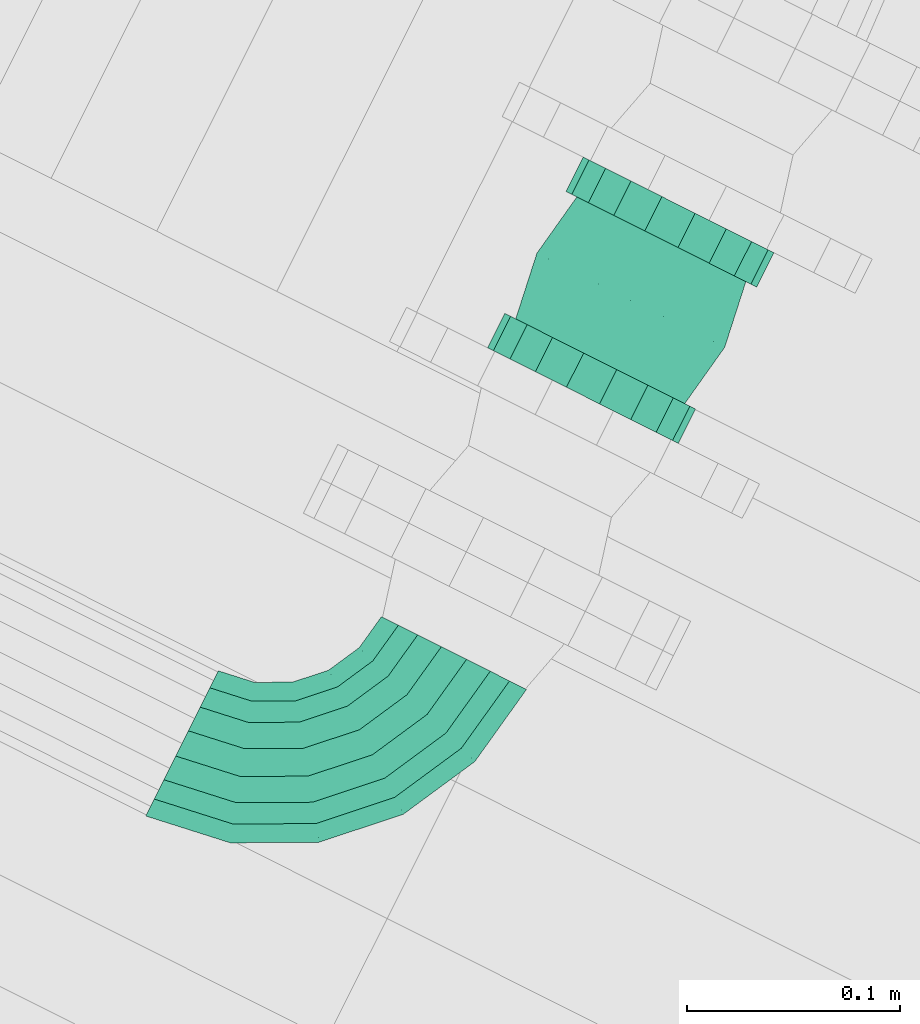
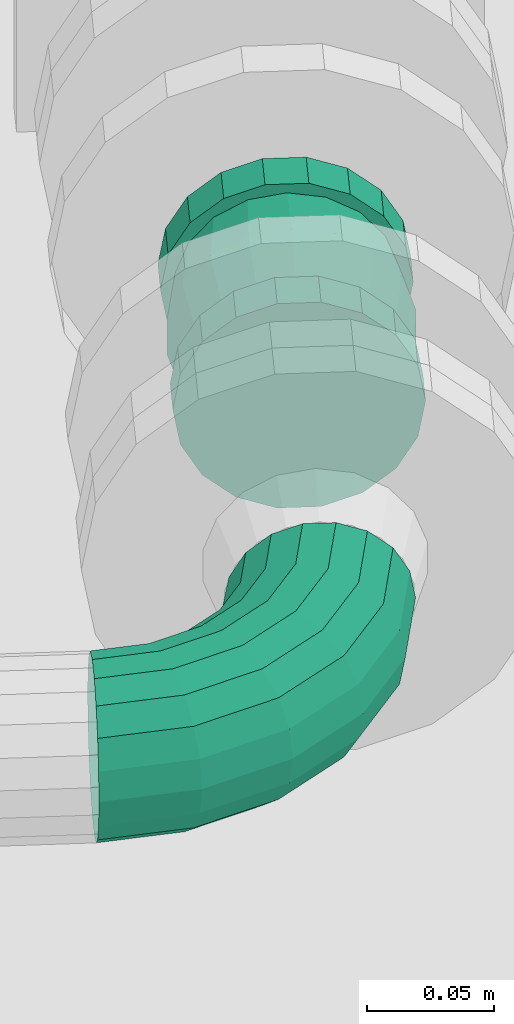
# One storey, part 61 of 206: 2 flow segments.
"""IFC2X3 building model written with IfcOpenShell, lengths in metres."""

from ifc_helpers import new_model, si_unit, derived_unit, direction, frame, origin, place, context, subcontext, project, spatial, face_set, surface_model, source, transform, mapped, material, type_object, type_shapes, element, save


model = new_model("IFC2X3")

# Units and contexts
model_context = context("Model", 3, precision=5.2338327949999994e-05, world=origin(), true_north=direction((0.0, 1.0)))
body_context = subcontext(model_context, "Body", "Model", "MODEL_VIEW")
ifc_project = project(units=[si_unit("LENGTHUNIT", "METRE"), si_unit("AREAUNIT", "SQUARE_METRE"), si_unit("VOLUMEUNIT", "CUBIC_METRE"), si_unit("MASSUNIT", "GRAM", prefix="KILO"), si_unit("PLANEANGLEUNIT", "RADIAN"), derived_unit("THERMALTRANSMITTANCEUNIT", [(si_unit("MASSUNIT", "GRAM", prefix="KILO"), 1), (si_unit("THERMODYNAMICTEMPERATUREUNIT", "KELVIN"), -1), (si_unit("TIMEUNIT", "SECOND"), -3)])], contexts=[model_context])

# Site, building, storey
site_placement = place(None, frame((0.0, 0.0, 0.0), z_axis=(0.0, 0.0, 1.0), x_axis=(0.8939966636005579, -0.4480736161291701, 0.0)))
site = spatial("IfcSite", under=ifc_project, at=site_placement, Name="Default", CompositionType="ELEMENT")
building_placement = place(site_placement, origin())
building = spatial("IfcBuilding", under=site, at=building_placement, CompositionType="ELEMENT")
storey_placement = place(building_placement, origin())
storey = spatial("IfcBuildingStorey", under=building, at=storey_placement, Name="Erdgeschoss", CompositionType="ELEMENT", Elevation=0.0)

# Flow segments
ifc_material = material(Name="IfcSurfaceStyle #352577")
distribution_element_type_1 = type_object("IfcDistributionElementType", Name="Gummikompensator 604247:Gummikompensator 604247", material=ifc_material)
shared_shape_1 = source(origin(), body_context, "Body", "SurfaceModel", [
    surface_model("IfcFaceBasedSurfaceModel", [(25.040640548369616, 5.15795839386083, 0.8699999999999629), (25.04365591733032, 5.15795839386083, 0.8528989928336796), (25.04365591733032, 5.13995839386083, 0.8528989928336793), (25.040640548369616, 5.13995839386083, 0.8699999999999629), (25.05233832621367, 5.15795839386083, 0.8378606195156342), (25.05233832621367, 5.13995839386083, 0.8378606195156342), (25.06564054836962, 5.15795839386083, 0.8266987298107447), (25.06564054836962, 5.13995839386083, 0.8266987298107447), (25.081958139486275, 5.15795839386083, 0.8207596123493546), (25.081958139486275, 5.13995839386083, 0.8207596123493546), (25.099322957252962, 5.15795839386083, 0.820759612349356), (25.099322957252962, 5.13995839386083, 0.820759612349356), (25.115640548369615, 5.15795839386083, 0.8266987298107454), (25.115640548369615, 5.13995839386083, 0.8266987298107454), (25.128942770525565, 5.15795839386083, 0.8378606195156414), (25.128942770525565, 5.13995839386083, 0.8378606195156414), (25.13762517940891, 5.15795839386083, 0.8528989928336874), (25.13762517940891, 5.13995839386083, 0.8528989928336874), (25.140640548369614, 5.15795839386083, 0.8699999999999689), (25.140640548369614, 5.13995839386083, 0.8699999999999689), (25.137625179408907, 5.15795839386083, 0.8871010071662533), (25.137625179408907, 5.13995839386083, 0.8871010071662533), (25.12894277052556, 5.15795839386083, 0.9021393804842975), (25.12894277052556, 5.13995839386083, 0.9021393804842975), (25.115640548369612, 5.15795839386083, 0.9133012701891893), (25.115640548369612, 5.13995839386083, 0.9133012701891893), (25.09932295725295, 5.15795839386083, 0.9192403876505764), (25.09932295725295, 5.13995839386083, 0.9192403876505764), (25.08195813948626, 5.15795839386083, 0.9192403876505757), (25.08195813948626, 5.13995839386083, 0.9192403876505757), (25.06564054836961, 5.15795839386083, 0.913301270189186), (25.06564054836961, 5.13995839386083, 0.913301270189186), (25.052338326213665, 5.15795839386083, 0.9021393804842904), (25.052338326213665, 5.13995839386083, 0.9021393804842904), (25.04365591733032, 5.15795839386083, 0.887101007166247), (25.04365591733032, 5.13995839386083, 0.887101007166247), (25.090640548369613, 5.15795839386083, 0.8699999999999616), (25.090640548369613, 5.139958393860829, 0.8699999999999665), (25.090640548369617, 5.13995839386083, 0.8249999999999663), (25.106031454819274, 5.13995839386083, 0.8277138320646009), (25.107741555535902, 5.10795839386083, 0.8230153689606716), (25.090640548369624, 5.10795839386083, 0.8199999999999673), (25.119565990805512, 5.13995839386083, 0.8355280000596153), (25.122779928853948, 5.10795839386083, 0.8316977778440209), (25.129611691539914, 5.13995839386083, 0.8474999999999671), (25.13394181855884, 5.10795839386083, 0.8449999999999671), (25.134956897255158, 5.13995839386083, 0.8621858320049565), (25.139880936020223, 5.10795839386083, 0.861317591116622), (25.13495689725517, 5.139958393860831, 0.8778141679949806), (25.139880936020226, 5.107958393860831, 0.8786824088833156), (25.129611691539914, 5.13995839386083, 0.8924999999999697), (25.133941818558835, 5.10795839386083, 0.8949999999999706), (25.11956599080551, 5.13995839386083, 0.9044719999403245), (25.122779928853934, 5.10795839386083, 0.9083022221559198), (25.10603145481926, 5.13995839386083, 0.9122861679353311), (25.107741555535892, 5.10795839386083, 0.9169846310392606), (25.090640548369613, 5.13995839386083, 0.9149999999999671), (25.09064054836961, 5.10795839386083, 0.9199999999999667), (25.075249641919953, 5.13995839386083, 0.9122861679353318), (25.073539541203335, 5.10795839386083, 0.9169846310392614), (25.061715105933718, 5.13995839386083, 0.9044719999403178), (25.058501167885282, 5.10795839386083, 0.9083022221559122), (25.051669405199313, 5.13995839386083, 0.8924999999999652), (25.047339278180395, 5.10795839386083, 0.8949999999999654), (25.04632419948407, 5.13995839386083, 0.8778141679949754), (25.041400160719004, 5.10795839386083, 0.8786824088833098), (25.04632419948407, 5.13995839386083, 0.8621858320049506), (25.041400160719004, 5.10795839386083, 0.8613175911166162), (25.051669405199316, 5.13995839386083, 0.8474999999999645), (25.047339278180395, 5.10795839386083, 0.8449999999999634), (25.061715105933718, 5.13995839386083, 0.8355280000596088), (25.058501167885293, 5.10795839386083, 0.8316977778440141), (25.075249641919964, 5.13995839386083, 0.8277138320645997), (25.07353954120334, 5.10795839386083, 0.8230153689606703), (25.106031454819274, 5.07595839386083, 0.8277138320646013), (25.090640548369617, 5.07595839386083, 0.8249999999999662), (25.119565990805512, 5.07595839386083, 0.8355280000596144), (25.129611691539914, 5.07595839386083, 0.8474999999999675), (25.134956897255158, 5.07595839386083, 0.8621858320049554), (25.13495689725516, 5.07595839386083, 0.8778141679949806), (25.129611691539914, 5.07595839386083, 0.892499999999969), (25.11956599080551, 5.07595839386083, 0.9044719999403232), (25.10603145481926, 5.07595839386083, 0.9122861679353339), (25.090640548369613, 5.07595839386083, 0.9149999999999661), (25.075249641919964, 5.07595839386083, 0.912286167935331), (25.061715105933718, 5.07595839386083, 0.9044719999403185), (25.051669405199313, 5.07595839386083, 0.8924999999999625), (25.04632419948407, 5.07595839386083, 0.8778141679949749), (25.04632419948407, 5.07595839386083, 0.862185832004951), (25.05166940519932, 5.07595839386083, 0.8474999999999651), (25.061715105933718, 5.07595839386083, 0.8355280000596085), (25.075249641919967, 5.07595839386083, 0.8277138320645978), (25.040640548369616, 5.07595839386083, 0.8699999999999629), (25.04365591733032, 5.07595839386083, 0.8528989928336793), (25.04365591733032, 5.0579583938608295, 0.8528989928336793), (25.040640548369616, 5.0579583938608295, 0.8699999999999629), (25.05233832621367, 5.07595839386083, 0.8378606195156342), (25.05233832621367, 5.0579583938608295, 0.8378606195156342), (25.06564054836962, 5.07595839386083, 0.8266987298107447), (25.06564054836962, 5.0579583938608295, 0.8266987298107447), (25.081958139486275, 5.07595839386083, 0.8207596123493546), (25.081958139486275, 5.0579583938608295, 0.8207596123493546), (25.099322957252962, 5.07595839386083, 0.820759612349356), (25.099322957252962, 5.0579583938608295, 0.820759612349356), (25.115640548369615, 5.07595839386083, 0.8266987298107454), (25.115640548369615, 5.0579583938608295, 0.8266987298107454), (25.128942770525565, 5.07595839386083, 0.8378606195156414), (25.128942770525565, 5.0579583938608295, 0.8378606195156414), (25.13762517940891, 5.07595839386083, 0.8528989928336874), (25.13762517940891, 5.0579583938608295, 0.8528989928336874), (25.140640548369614, 5.07595839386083, 0.8699999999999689), (25.140640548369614, 5.0579583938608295, 0.8699999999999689), (25.137625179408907, 5.07595839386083, 0.8871010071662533), (25.137625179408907, 5.0579583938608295, 0.8871010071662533), (25.12894277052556, 5.07595839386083, 0.9021393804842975), (25.12894277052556, 5.0579583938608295, 0.9021393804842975), (25.115640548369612, 5.07595839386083, 0.9133012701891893), (25.115640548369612, 5.0579583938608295, 0.9133012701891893), (25.09932295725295, 5.07595839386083, 0.9192403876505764), (25.09932295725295, 5.0579583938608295, 0.9192403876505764), (25.08195813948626, 5.07595839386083, 0.9192403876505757), (25.08195813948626, 5.0579583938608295, 0.9192403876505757), (25.06564054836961, 5.07595839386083, 0.913301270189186), (25.06564054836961, 5.0579583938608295, 0.913301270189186), (25.052338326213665, 5.07595839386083, 0.9021393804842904), (25.052338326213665, 5.0579583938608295, 0.9021393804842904), (25.04365591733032, 5.07595839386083, 0.887101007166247), (25.04365591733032, 5.0579583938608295, 0.887101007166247), (25.090640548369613, 5.07595839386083, 0.8699999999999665), (25.090640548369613, 5.0579583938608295, 0.8699999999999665)], [face_set([[[0, 1, 2, 3]], [[1, 4, 5, 2]], [[4, 6, 7, 5]], [[6, 8, 9, 7]], [[8, 10, 11, 9]], [[10, 12, 13, 11]], [[12, 14, 15, 13]], [[14, 16, 17, 15]], [[16, 18, 19, 17]], [[18, 20, 21, 19]], [[20, 22, 23, 21]], [[22, 24, 25, 23]], [[24, 26, 27, 25]], [[26, 28, 29, 27]], [[28, 30, 31, 29]], [[30, 32, 33, 31]], [[32, 34, 35, 33]], [[34, 0, 3, 35]], [[36, 1, 0]], [[36, 4, 1]], [[36, 6, 4]], [[36, 8, 6]], [[36, 10, 8]], [[36, 12, 10]], [[36, 14, 12]], [[36, 16, 14]], [[36, 18, 16]], [[36, 20, 18]], [[36, 22, 20]], [[36, 24, 22]], [[36, 26, 24]], [[36, 28, 26]], [[36, 30, 28]], [[36, 32, 30]], [[36, 34, 32]], [[36, 0, 34]], [[37, 35, 3]], [[37, 33, 35]], [[37, 31, 33]], [[37, 29, 31]], [[37, 27, 29]], [[37, 25, 27]], [[37, 23, 25]], [[37, 21, 23]], [[37, 19, 21]], [[37, 17, 19]], [[37, 15, 17]], [[37, 13, 15]], [[37, 11, 13]], [[37, 9, 11]], [[37, 7, 9]], [[37, 5, 7]], [[37, 2, 5]], [[37, 3, 2]], [[38, 39, 40, 41]], [[39, 42, 43, 40]], [[42, 44, 45, 43]], [[44, 46, 47, 45]], [[46, 48, 49, 47]], [[48, 50, 51, 49]], [[50, 52, 53, 51]], [[52, 54, 55, 53]], [[54, 56, 57, 55]], [[56, 58, 59, 57]], [[58, 60, 61, 59]], [[60, 62, 63, 61]], [[62, 64, 65, 63]], [[64, 66, 67, 65]], [[66, 68, 69, 67]], [[68, 70, 71, 69]], [[70, 72, 73, 71]], [[72, 38, 41, 73]], [[41, 40, 74, 75]], [[40, 43, 76, 74]], [[43, 45, 77, 76]], [[45, 47, 78, 77]], [[47, 49, 79, 78]], [[49, 51, 80, 79]], [[51, 53, 81, 80]], [[53, 55, 82, 81]], [[55, 57, 83, 82]], [[57, 59, 84, 83]], [[59, 61, 85, 84]], [[61, 63, 86, 85]], [[63, 65, 87, 86]], [[65, 67, 88, 87]], [[67, 69, 89, 88]], [[69, 71, 90, 89]], [[71, 73, 91, 90]], [[73, 41, 75, 91]], [[92, 93, 94, 95]], [[93, 96, 97, 94]], [[96, 98, 99, 97]], [[98, 100, 101, 99]], [[100, 102, 103, 101]], [[102, 104, 105, 103]], [[104, 106, 107, 105]], [[106, 108, 109, 107]], [[108, 110, 111, 109]], [[110, 112, 113, 111]], [[112, 114, 115, 113]], [[114, 116, 117, 115]], [[116, 118, 119, 117]], [[118, 120, 121, 119]], [[120, 122, 123, 121]], [[122, 124, 125, 123]], [[124, 126, 127, 125]], [[126, 92, 95, 127]], [[128, 93, 92]], [[128, 96, 93]], [[128, 98, 96]], [[128, 100, 98]], [[128, 102, 100]], [[128, 104, 102]], [[128, 106, 104]], [[128, 108, 106]], [[128, 110, 108]], [[128, 112, 110]], [[128, 114, 112]], [[128, 116, 114]], [[128, 118, 116]], [[128, 120, 118]], [[128, 122, 120]], [[128, 124, 122]], [[128, 126, 124]], [[128, 92, 126]], [[129, 127, 95]], [[129, 125, 127]], [[129, 123, 125]], [[129, 121, 123]], [[129, 119, 121]], [[129, 117, 119]], [[129, 115, 117]], [[129, 113, 115]], [[129, 111, 113]], [[129, 109, 111]], [[129, 107, 109]], [[129, 105, 107]], [[129, 103, 105]], [[129, 101, 103]], [[129, 99, 101]], [[129, 97, 99]], [[129, 94, 97]], [[129, 95, 94]]])]),
])
type_shapes(distribution_element_type_1, [shared_shape_1])
flow_segment_1_placement = place(storey_placement, origin())
element("IfcFlowSegment", 1, at=flow_segment_1_placement, inside=storey, type_object=distribution_element_type_1, material=ifc_material, Name="Gummikompensator", ObjectType="Gummikompensator", context=body_context, shape_type="MappedRepresentation", body=[
    mapped(shared_shape_1, transform((0.0, 0.0, 0.0), scale=1.0)),
])
distribution_element_type_2 = type_object("IfcDistributionElementType", Name="Rohrbogen 604270:Rohrbogen 604270", material=ifc_material)
shared_shape_2 = source(origin(), body_context, "Body", "SurfaceModel", [
    surface_model("IfcFaceBasedSurfaceModel", [(25.128690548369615, 4.922958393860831, 0.8699999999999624), (25.12639585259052, 4.92295839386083, 0.8830138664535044), (25.119996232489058, 4.882552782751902, 0.8830138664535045), (25.122178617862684, 4.881843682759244, 0.8699999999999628), (25.101423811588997, 4.846102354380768, 0.8830138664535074), (25.1032802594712, 4.844753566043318, 0.8699999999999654), (25.07249658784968, 4.817175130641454, 0.8830138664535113), (25.07384537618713, 4.815318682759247, 0.8699999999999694), (25.036046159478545, 4.798602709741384, 0.8830138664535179), (25.036755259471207, 4.796420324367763, 0.8699999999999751), (24.995640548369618, 4.7922030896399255, 0.8830138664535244), (24.99564054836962, 4.789908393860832, 0.8699999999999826), (25.1197885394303, 4.92295839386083, 0.8944580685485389), (25.11371230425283, 4.884594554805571, 0.894458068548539), (25.096078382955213, 4.849986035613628, 0.8944580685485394), (25.068612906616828, 4.822520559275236, 0.894458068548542), (25.034004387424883, 4.804886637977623, 0.8944580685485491), (24.99564054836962, 4.798810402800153, 0.8944580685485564), (25.109665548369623, 4.922958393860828, 0.9029522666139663), (25.104084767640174, 4.887722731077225, 0.9029522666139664), (25.087888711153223, 4.855936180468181, 0.9029522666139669), (25.062662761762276, 4.8307102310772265, 0.9029522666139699), (25.030876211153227, 4.814514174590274, 0.9029522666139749), (24.99564054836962, 4.808933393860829, 0.9029522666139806), (25.097247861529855, 4.922958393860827, 0.907471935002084), (25.092274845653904, 4.891560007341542, 0.9074719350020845), (25.07784259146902, 4.863235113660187, 0.907471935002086), (25.055363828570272, 4.840756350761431, 0.9074719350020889), (25.027038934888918, 4.826324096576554, 0.9074719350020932), (24.995640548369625, 4.821351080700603, 0.9074719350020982), (25.0840332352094, 4.922958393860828, 0.9074719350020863), (25.079706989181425, 4.895643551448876, 0.9074719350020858), (25.06715173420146, 4.871002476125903, 0.9074719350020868), (25.04759646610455, 4.851447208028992, 0.9074719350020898), (25.022955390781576, 4.838891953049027, 0.9074719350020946), (24.995640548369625, 4.8345657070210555, 0.9074719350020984), (25.071615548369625, 4.92295839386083, 0.9029522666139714), (25.067897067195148, 4.899480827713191, 0.9029522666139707), (25.057105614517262, 4.878301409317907, 0.9029522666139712), (25.04029753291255, 4.861493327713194, 0.9029522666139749), (25.019118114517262, 4.850701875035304, 0.9029522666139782), (24.995640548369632, 4.8469833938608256, 0.9029522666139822), (25.06149255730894, 4.922958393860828, 0.8944580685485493), (25.05826953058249, 4.902609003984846, 0.8944580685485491), (25.048915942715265, 4.884251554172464, 0.8944580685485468), (25.034347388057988, 4.86968299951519, 0.8944580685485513), (25.015989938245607, 4.860329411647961, 0.8944580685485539), (24.99564054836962, 4.857106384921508, 0.8944580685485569), (25.054885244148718, 4.92295839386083, 0.8830138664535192), (25.051985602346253, 4.9046507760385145, 0.8830138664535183), (25.043570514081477, 4.888135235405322, 0.8830138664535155), (25.030463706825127, 4.875028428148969, 0.883013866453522), (25.013948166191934, 4.866613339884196, 0.8830138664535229), (24.99564054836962, 4.863713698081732, 0.8830138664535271), (25.052590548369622, 4.92295839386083, 0.8699999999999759), (25.049803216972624, 4.9053598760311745, 0.8699999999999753), (25.041714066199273, 4.889484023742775, 0.8699999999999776), (25.02911491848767, 4.876884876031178, 0.8699999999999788), (25.013239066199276, 4.868795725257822, 0.8699999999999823), (24.995640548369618, 4.866008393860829, 0.869999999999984), (25.05488524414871, 4.92295839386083, 0.8569861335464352), (25.051985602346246, 4.904650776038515, 0.8569861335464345), (25.043570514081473, 4.888135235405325, 0.8569861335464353), (25.030463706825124, 4.87502842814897, 0.856986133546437), (25.01394816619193, 4.8666133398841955, 0.8569861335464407), (24.995640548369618, 4.863713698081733, 0.8569861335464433), (25.06149255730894, 4.92295839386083, 0.8455419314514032), (25.058269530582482, 4.902609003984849, 0.8455419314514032), (25.04891594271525, 4.884251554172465, 0.845541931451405), (25.03434738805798, 4.869682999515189, 0.8455419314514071), (25.015989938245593, 4.860329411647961, 0.8455419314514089), (24.995640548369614, 4.85710638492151, 0.8455419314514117), (25.071615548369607, 4.922958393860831, 0.8370477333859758), (25.067897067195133, 4.899480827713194, 0.8370477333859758), (25.057105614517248, 4.87830140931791, 0.8370477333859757), (25.040297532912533, 4.861493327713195, 0.8370477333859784), (25.019118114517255, 4.850701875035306, 0.8370477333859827), (24.995640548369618, 4.846983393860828, 0.8370477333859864), (25.084033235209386, 4.92295839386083, 0.8325280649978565), (25.079706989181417, 4.8956435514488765, 0.8325280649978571), (25.06715173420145, 4.871002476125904, 0.8325280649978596), (25.04759646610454, 4.851447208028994, 0.8325280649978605), (25.02295539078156, 4.8388919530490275, 0.8325280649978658), (24.995640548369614, 4.834565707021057, 0.8325280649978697), (25.09724786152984, 4.92295839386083, 0.8325280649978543), (25.092274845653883, 4.891560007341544, 0.8325280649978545), (25.077842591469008, 4.8632351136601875, 0.832528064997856), (25.055363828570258, 4.840756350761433, 0.8325280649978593), (25.027038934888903, 4.826324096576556, 0.8325280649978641), (24.995640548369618, 4.8213510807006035, 0.832528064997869), (25.109665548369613, 4.92295839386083, 0.8370477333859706), (25.104084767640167, 4.887722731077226, 0.8370477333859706), (25.087888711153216, 4.855936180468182, 0.8370477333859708), (25.06266276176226, 4.830710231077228, 0.837047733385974), (25.030876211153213, 4.8145141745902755, 0.837047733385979), (24.995640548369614, 4.808933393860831, 0.837047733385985), (25.119788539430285, 4.922958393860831, 0.8455419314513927), (25.11371230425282, 4.884594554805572, 0.8455419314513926), (25.09607838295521, 4.849986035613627, 0.8455419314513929), (25.068612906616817, 4.822520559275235, 0.8455419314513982), (25.034004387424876, 4.8048866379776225, 0.845541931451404), (24.995640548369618, 4.798810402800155, 0.8455419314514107), (25.12639585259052, 4.92295839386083, 0.8569861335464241), (25.119996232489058, 4.882552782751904, 0.856986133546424), (25.101423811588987, 4.846102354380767, 0.8569861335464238), (25.072496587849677, 4.817175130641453, 0.8569861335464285), (25.036046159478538, 4.798602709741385, 0.8569861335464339), (24.995640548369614, 4.792203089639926, 0.8569861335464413)], [face_set([[[0, 1, 2, 3]], [[3, 2, 4, 5]], [[5, 4, 6, 7]], [[7, 6, 8, 9]], [[9, 8, 10, 11]], [[1, 12, 13, 2]], [[2, 13, 14, 4]], [[4, 14, 15, 6]], [[6, 15, 16, 8]], [[8, 16, 17, 10]], [[12, 18, 19, 13]], [[13, 19, 20, 14]], [[14, 20, 21, 15]], [[15, 21, 22, 16]], [[16, 22, 23, 17]], [[18, 24, 25, 19]], [[19, 25, 26, 20]], [[20, 26, 27, 21]], [[21, 27, 28, 22]], [[22, 28, 29, 23]], [[24, 30, 31, 25]], [[25, 31, 32, 26]], [[26, 32, 33, 27]], [[27, 33, 34, 28]], [[28, 34, 35, 29]], [[30, 36, 37, 31]], [[31, 37, 38, 32]], [[32, 38, 39, 33]], [[33, 39, 40, 34]], [[34, 40, 41, 35]], [[36, 42, 43, 37]], [[37, 43, 44, 38]], [[38, 44, 45, 39]], [[39, 45, 46, 40]], [[40, 46, 47, 41]], [[42, 48, 49, 43]], [[43, 49, 50, 44]], [[44, 50, 51, 45]], [[45, 51, 52, 46]], [[46, 52, 53, 47]], [[48, 54, 55, 49]], [[49, 55, 56, 50]], [[50, 56, 57, 51]], [[51, 57, 58, 52]], [[52, 58, 59, 53]], [[54, 60, 61, 55]], [[55, 61, 62, 56]], [[56, 62, 63, 57]], [[57, 63, 64, 58]], [[58, 64, 65, 59]], [[60, 66, 67, 61]], [[61, 67, 68, 62]], [[62, 68, 69, 63]], [[63, 69, 70, 64]], [[64, 70, 71, 65]], [[66, 72, 73, 67]], [[67, 73, 74, 68]], [[68, 74, 75, 69]], [[69, 75, 76, 70]], [[70, 76, 77, 71]], [[72, 78, 79, 73]], [[73, 79, 80, 74]], [[74, 80, 81, 75]], [[75, 81, 82, 76]], [[76, 82, 83, 77]], [[78, 84, 85, 79]], [[79, 85, 86, 80]], [[80, 86, 87, 81]], [[81, 87, 88, 82]], [[82, 88, 89, 83]], [[84, 90, 91, 85]], [[85, 91, 92, 86]], [[86, 92, 93, 87]], [[87, 93, 94, 88]], [[88, 94, 95, 89]], [[90, 96, 97, 91]], [[91, 97, 98, 92]], [[92, 98, 99, 93]], [[93, 99, 100, 94]], [[94, 100, 101, 95]], [[96, 102, 103, 97]], [[97, 103, 104, 98]], [[98, 104, 105, 99]], [[99, 105, 106, 100]], [[100, 106, 107, 101]], [[102, 0, 3, 103]], [[103, 3, 5, 104]], [[104, 5, 7, 105]], [[105, 7, 9, 106]], [[106, 9, 11, 107]]])]),
])
type_shapes(distribution_element_type_2, [shared_shape_2])
flow_segment_2_placement = place(storey_placement, origin())
element("IfcFlowSegment", 2, at=flow_segment_2_placement, inside=storey, type_object=distribution_element_type_2, material=ifc_material, Name="Rohrbogen", ObjectType="Rohrbogen", context=body_context, shape_type="MappedRepresentation", body=[
    mapped(shared_shape_2, transform((0.0, 0.0, 0.0), scale=1.0)),
])

save(model, "model.ifc")
